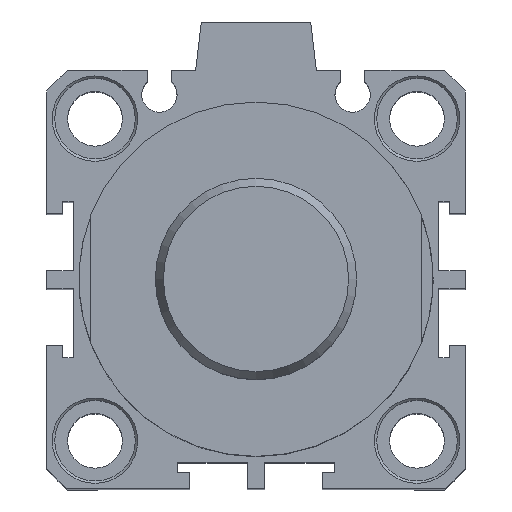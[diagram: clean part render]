
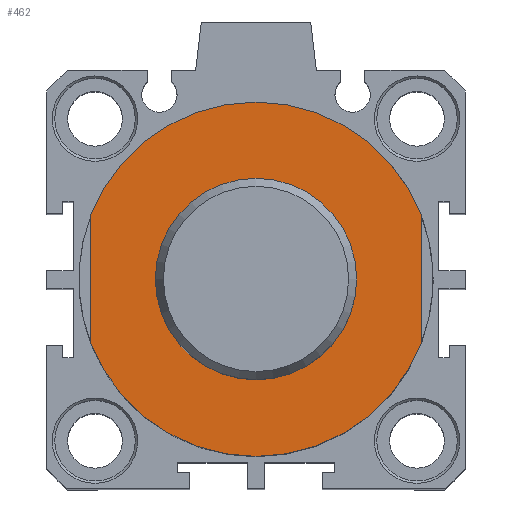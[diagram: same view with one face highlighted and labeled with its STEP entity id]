
A CAD part, top view. The second image highlights one B-rep face of the part: STEP entity #462.
In plain terms, the highlighted planar face has unit normal (0, 0, 1).
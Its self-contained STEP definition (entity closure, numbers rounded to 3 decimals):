
#77=CARTESIAN_POINT('',(0.598,14.055,100.2));
#78=VERTEX_POINT('',#77);
#79=CARTESIAN_POINT('',(0.598,1.555,100.2));
#80=DIRECTION('',(0.0,0.0,-1.0));
#81=DIRECTION('',(0.0,1.0,0.0));
#82=AXIS2_PLACEMENT_3D('',#79,#80,#81);
#83=CIRCLE('',#82,12.5);
#84=EDGE_CURVE('',#78,#78,#83,.T.);
#339=CARTESIAN_POINT('',(21.098,9.539,100.2));
#340=VERTEX_POINT('',#339);
#347=CARTESIAN_POINT('',(21.098,-6.429,100.2));
#348=VERTEX_POINT('',#347);
#349=CARTESIAN_POINT('',(21.098,-6.429,100.2));
#350=DIRECTION('',(0.0,1.0,0.0));
#351=VECTOR('',#350,15.969);
#352=LINE('',#349,#351);
#353=EDGE_CURVE('',#348,#340,#352,.T.);
#395=CARTESIAN_POINT('',(-19.902,-6.429,100.2));
#396=VERTEX_POINT('',#395);
#403=CARTESIAN_POINT('',(-19.902,9.539,100.2));
#404=VERTEX_POINT('',#403);
#405=CARTESIAN_POINT('',(-19.902,9.539,100.2));
#406=DIRECTION('',(0.0,-1.0,0.0));
#407=VECTOR('',#406,15.969);
#408=LINE('',#405,#407);
#409=EDGE_CURVE('',#404,#396,#408,.T.);
#436=CARTESIAN_POINT('',(0.598,18.805,100.2));
#437=DIRECTION('',(0.0,0.0,1.0));
#438=DIRECTION('',(1.0,0.0,0.0));
#439=AXIS2_PLACEMENT_3D('',#436,#437,#438);
#440=PLANE('',#439);
#441=ORIENTED_EDGE('',*,*,#353,.T.);
#442=CARTESIAN_POINT('',(0.598,1.555,100.2));
#443=DIRECTION('',(0.0,0.0,-1.0));
#444=DIRECTION('',(0.0,1.0,0.0));
#445=AXIS2_PLACEMENT_3D('',#442,#443,#444);
#446=CIRCLE('',#445,22.0);
#447=EDGE_CURVE('',#404,#340,#446,.T.);
#448=ORIENTED_EDGE('',*,*,#447,.F.);
#449=ORIENTED_EDGE('',*,*,#409,.T.);
#450=CARTESIAN_POINT('',(0.598,1.555,100.2));
#451=DIRECTION('',(0.0,0.0,-1.0));
#452=DIRECTION('',(0.0,1.0,0.0));
#453=AXIS2_PLACEMENT_3D('',#450,#451,#452);
#454=CIRCLE('',#453,22.0);
#455=EDGE_CURVE('',#348,#396,#454,.T.);
#456=ORIENTED_EDGE('',*,*,#455,.F.);
#457=EDGE_LOOP('',(#441,#448,#449,#456));
#458=FACE_OUTER_BOUND('',#457,.T.);
#459=ORIENTED_EDGE('',*,*,#84,.T.);
#460=EDGE_LOOP('',(#459));
#461=FACE_BOUND('',#460,.T.);
#462=ADVANCED_FACE('',(#458,#461),#440,.T.);
